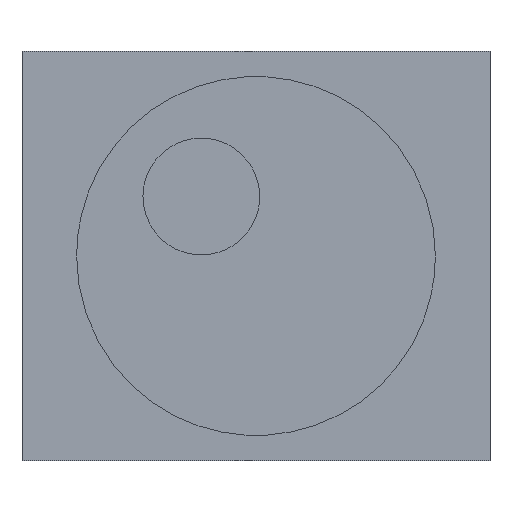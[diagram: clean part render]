
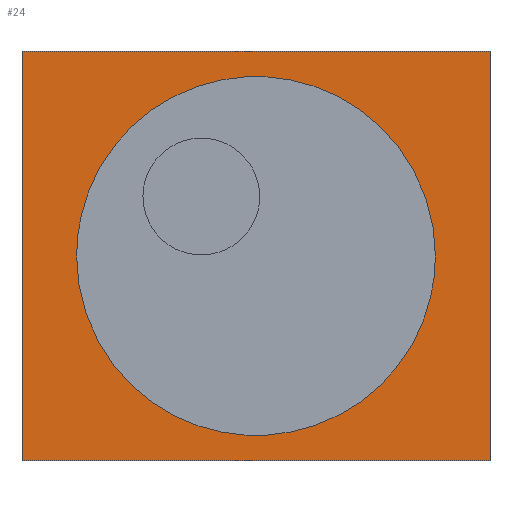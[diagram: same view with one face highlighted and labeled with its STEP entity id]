
A CAD part, top view. The second image highlights one B-rep face of the part: STEP entity #24.
In plain terms, the highlighted planar face has unit normal (0, 0, 1).
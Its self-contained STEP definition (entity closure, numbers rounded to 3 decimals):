
#24=ADVANCED_FACE('',(#46,#37),#261,.T.);
#37=FACE_BOUND('',#66,.T.);
#46=FACE_OUTER_BOUND('',#65,.T.);
#65=EDGE_LOOP('',(#106,#107,#108,#109));
#66=EDGE_LOOP('',(#110,#111));
#106=ORIENTED_EDGE('',*,*,#158,.T.);
#107=ORIENTED_EDGE('',*,*,#160,.T.);
#108=ORIENTED_EDGE('',*,*,#162,.T.);
#109=ORIENTED_EDGE('',*,*,#164,.T.);
#110=ORIENTED_EDGE('',*,*,#169,.F.);
#111=ORIENTED_EDGE('',*,*,#166,.F.);
#158=EDGE_CURVE('',#229,#230,#209,.T.);
#160=EDGE_CURVE('',#230,#231,#211,.T.);
#162=EDGE_CURVE('',#231,#232,#213,.T.);
#164=EDGE_CURVE('',#232,#229,#215,.T.);
#166=EDGE_CURVE('',#233,#235,#189,.T.);
#169=EDGE_CURVE('',#235,#233,#191,.T.);
#189=(
BOUNDED_CURVE()
B_SPLINE_CURVE(2,(#447,#448,#449,#450,#451),.UNSPECIFIED.,.F.,.F.)
B_SPLINE_CURVE_WITH_KNOTS((3,2,3),(0.,1345.133,2690.266),
 .UNSPECIFIED.)
CURVE()
GEOMETRIC_REPRESENTATION_ITEM()
RATIONAL_B_SPLINE_CURVE((1.,0.707,1.,0.707,1.))
REPRESENTATION_ITEM('')
);
#191=(
BOUNDED_CURVE()
B_SPLINE_CURVE(2,(#459,#460,#461,#462,#463),.UNSPECIFIED.,.F.,.F.)
B_SPLINE_CURVE_WITH_KNOTS((3,2,3),(2690.266,4035.399,5380.532),
 .UNSPECIFIED.)
CURVE()
GEOMETRIC_REPRESENTATION_ITEM()
RATIONAL_B_SPLINE_CURVE((1.,0.707,1.,0.707,1.))
REPRESENTATION_ITEM('')
);
#209=B_SPLINE_CURVE_WITH_KNOTS('',1,(#431,#432),.UNSPECIFIED.,.F.,.F.,(2,
2),(0.,2235.),.UNSPECIFIED.);
#211=B_SPLINE_CURVE_WITH_KNOTS('',1,(#435,#436),.UNSPECIFIED.,.F.,.F.,(2,
2),(2235.,4200.),.UNSPECIFIED.);
#213=B_SPLINE_CURVE_WITH_KNOTS('',1,(#439,#440),.UNSPECIFIED.,.F.,.F.,(2,
2),(4200.,6435.),.UNSPECIFIED.);
#215=B_SPLINE_CURVE_WITH_KNOTS('',1,(#443,#444),.UNSPECIFIED.,.F.,.F.,(2,
2),(6435.,8400.),.UNSPECIFIED.);
#229=VERTEX_POINT('',#409);
#230=VERTEX_POINT('',#410);
#231=VERTEX_POINT('',#411);
#232=VERTEX_POINT('',#412);
#233=VERTEX_POINT('',#413);
#235=VERTEX_POINT('',#415);
#261=PLANE('',#360);
#360=AXIS2_PLACEMENT_3D('',#402,#381,$);
#381=DIRECTION('',(0.,0.,1.));
#402=CARTESIAN_POINT('',(0.,0.,12.));
#409=CARTESIAN_POINT('',(0.,0.,12.));
#410=CARTESIAN_POINT('',(2000.,0.,12.));
#411=CARTESIAN_POINT('',(2000.,1750.176,12.));
#412=CARTESIAN_POINT('',(0.,1750.176,12.));
#413=CARTESIAN_POINT('',(1766.641,875.088,12.));
#415=CARTESIAN_POINT('',(233.359,875.088,12.));
#431=CARTESIAN_POINT('',(0.,0.,12.));
#432=CARTESIAN_POINT('',(2000.,0.,12.));
#435=CARTESIAN_POINT('',(2000.,0.,12.));
#436=CARTESIAN_POINT('',(2000.,1750.176,12.));
#439=CARTESIAN_POINT('',(2000.,1750.176,12.));
#440=CARTESIAN_POINT('',(0.,1750.176,12.));
#443=CARTESIAN_POINT('',(0.,1750.176,12.));
#444=CARTESIAN_POINT('',(0.,0.,12.));
#447=CARTESIAN_POINT('',(1766.641,875.088,12.));
#448=CARTESIAN_POINT('',(1766.641,1641.729,12.));
#449=CARTESIAN_POINT('',(1000.,1641.729,12.));
#450=CARTESIAN_POINT('',(233.359,1641.729,12.));
#451=CARTESIAN_POINT('',(233.359,875.088,12.));
#459=CARTESIAN_POINT('',(233.359,875.088,12.));
#460=CARTESIAN_POINT('',(233.359,108.447,12.));
#461=CARTESIAN_POINT('',(1000.,108.447,12.));
#462=CARTESIAN_POINT('',(1766.641,108.447,12.));
#463=CARTESIAN_POINT('',(1766.641,875.088,12.));
